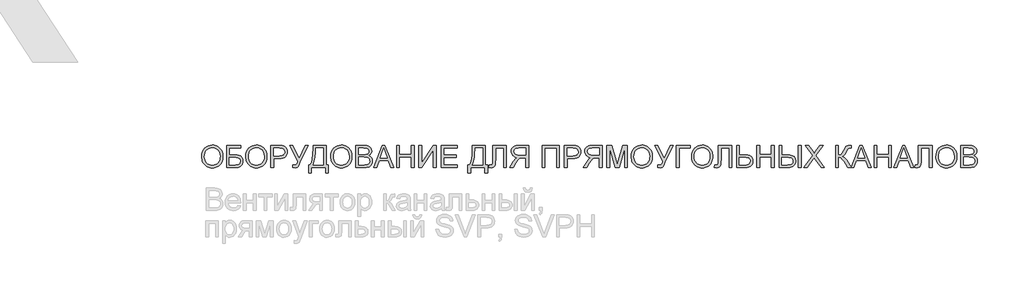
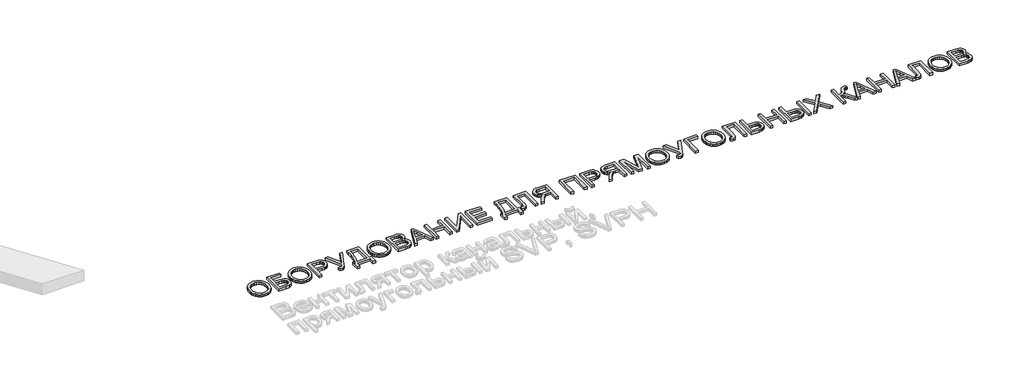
# One storey, part 21 of 31: 1 proxy.
"""IFC4 building model written with IfcOpenShell, lengths in millimetres."""

from ifc_helpers import new_model, si_unit, origin, origin_with_axes, place, context, project, spatial, polyline, outline, extrude, element, save

model = new_model("IFC4")

# Units and contexts
model_context = context("Model", 3, world=origin())
ifc_project = project(units=[si_unit("LENGTHUNIT", "METRE", prefix="MILLI")], contexts=[model_context])

# Site, building, storey
site = spatial("IfcSite", under=ifc_project)
building = spatial("IfcBuilding", under=site)
storey = spatial("IfcBuildingStorey", under=building, Name="Этаж 01", Elevation=0.0)

# Proxy
placement = place(None, origin())
element("IfcBuildingElementProxy", 1, Name="450 мм Arial", ObjectType="450 мм Arial", at=placement, inside=storey, context=model_context, shape_type="SweptSolid", body=[
    extrude(outline(polyline([(22926.643365, -1393.708141), (22930.3895847, -1340.9660333), (22941.6282438, -1294.2755113), (22960.3593423, -1253.6365749), (22986.5828801, -1219.0492242), (23018.7276407, -1191.432861), (23055.2224073, -1171.7068874), (23096.0671799, -1159.8713032), (23141.2619586, -1155.9261084), (23171.5130257, -1157.7786347), (23200.2409046, -1163.3362133), (23227.4455952, -1172.5988444), (23253.1270976, -1185.566528), (23276.5649849, -1201.8481751), (23297.0388303, -1221.052697), (23314.5486337, -1243.1800935), (23329.0943952, -1268.2303648), (23340.5251681, -1295.6340305), (23348.6900059, -1324.8216103), (23353.5889086, -1355.7931043), (23355.2218761, -1388.5485124), (23353.5031435, -1421.7361766), (23348.3469455, -1453.1262043), (23339.7532822, -1482.7185954), (23327.7221535, -1510.51335), (23312.5382997, -1535.7763187), (23294.4864609, -1557.7733523), (23273.5666369, -1576.5044508), (23249.778828, -1591.9696141), (23224.0595889, -1604.0727854), (23197.3454747, -1612.7179078), (23169.6364852, -1617.9049812), (23140.9326206, -1619.6340057), (23110.1532404, -1617.7231592), (23081.0479951, -1611.9906197), (23053.6168846, -1602.4363873), (23027.8599089, -1589.0604618), (23004.4494664, -1572.3808646), (22984.0579555, -1552.9156168), (22966.6853763, -1530.6647185), (22952.3317286, -1505.6281697), (22941.0930696, -1478.8111373), (22933.0654559, -1451.2187884), (22928.2488877, -1422.851123), (22926.643365, -1393.708141)]), holes=[polyline([(22982.8503829, -1394.2570376), (22985.6600476, -1431.5202596), (22994.089042, -1464.5981445), (23008.1373658, -1493.4906923), (23027.8050192, -1518.1979032), (23051.7128993, -1537.9856277), (23078.4819032, -1552.1197167), (23108.112031, -1560.6001701), (23140.6032826, -1563.4269879), (23173.650292, -1560.5727252), (23203.6303414, -1552.0099374), (23230.5434307, -1537.7386242), (23254.3895599, -1517.7587859), (23273.913128, -1492.5301232), (23287.8585337, -1462.5123372), (23296.2257771, -1427.7054278), (23299.0148583, -1388.1093951), (23294.2394574, -1338.351913), (23279.9132546, -1295.3458597), (23256.4067552, -1260.1753063), (23224.0904644, -1233.9243236), (23185.1050792, -1217.5809256), (23141.5912966, -1212.1331263), (23110.2287137, -1214.7575384), (23081.1303296, -1222.6307749), (23054.2961442, -1235.7528356), (23029.7261575, -1254.1237207), (23009.2180061, -1278.6285259), (22994.5693265, -1310.1523471), (22985.7801188, -1348.6951844), (22982.8503829, -1394.2570376)])]), origin_with_axes(), (0.0, 0.0, 1.0), 50.0),
    extrude(outline(polyline([(23432.5065257, -1162.9519857), (23713.5416149, -1162.9519857), (23713.5416149, -1219.1590035), (23488.7135435, -1219.1590035), (23488.7135435, -1352.6506709), (23593.9919227, -1352.6506709), (23646.3292191, -1355.5049335), (23686.755458, -1364.0677214), (23717.7955641, -1380.562066), (23741.9744619, -1407.2109988), (23757.5356821, -1441.51704), (23762.7227556, -1480.9827097), (23759.0314255, -1514.1223455), (23747.9574355, -1545.0389498), (23729.555675, -1572.1132775), (23703.8810338, -1593.7260834), (23686.6525399, -1601.9869781), (23664.2781398, -1607.8876172), (23604.0916212, -1612.6081285), (23432.5065257, -1612.6081285), (23432.5065257, -1162.9519857)]), holes=[polyline([(23488.7135435, -1556.4011106), (23609.1414705, -1556.4011106), (23651.7084063, -1551.7629339), (23668.4428932, -1545.9652129), (23682.1447261, -1537.8484036), (23692.8070437, -1527.4125058), (23700.4229848, -1514.6575197), (23704.9925495, -1499.5834452), (23706.5157377, -1482.1902824), (23703.0302439, -1458.0113846), (23692.5737626, -1438.1687703), (23675.9010266, -1423.4583399), (23653.7667688, -1414.6759934), (23620.1605709, -1410.3122649), (23569.0720144, -1408.8576888), (23488.7135435, -1408.8576888), (23488.7135435, -1556.4011106)])]), origin_with_axes(), (0.0, 0.0, 1.0), 50.0),
    extrude(outline(polyline([(23818.9297734, -1393.708141), (23822.6759931, -1340.9660333), (23833.9146522, -1294.2755113), (23852.6457507, -1253.6365749), (23878.8692886, -1219.0492242), (23911.0140491, -1191.432861), (23947.5088157, -1171.7068874), (23988.3535883, -1159.8713032), (24033.548367, -1155.9261084), (24063.7994341, -1157.7786347), (24092.527313, -1163.3362133), (24119.7320036, -1172.5988444), (24145.413506, -1185.566528), (24168.8513934, -1201.8481751), (24189.3252387, -1221.052697), (24206.8350421, -1243.1800935), (24221.3808036, -1268.2303648), (24232.8115765, -1295.6340305), (24240.9764143, -1324.8216103), (24245.875317, -1355.7931043), (24247.5082845, -1388.5485124), (24245.7895519, -1421.7361766), (24240.6333539, -1453.1262043), (24232.0396906, -1482.7185954), (24220.0085619, -1510.51335), (24204.8247081, -1535.7763187), (24186.7728693, -1557.7733523), (24165.8530454, -1576.5044508), (24142.0652364, -1591.9696141), (24116.3459973, -1604.0727854), (24089.6318831, -1612.7179078), (24061.9228936, -1617.9049812), (24033.219029, -1619.6340057), (24002.4396488, -1617.7231592), (23973.3344035, -1611.9906197), (23945.903293, -1602.4363873), (23920.1463173, -1589.0604618), (23896.7358748, -1572.3808646), (23876.3443639, -1552.9156168), (23858.9717847, -1530.6647185), (23844.618137, -1505.6281697), (23833.379478, -1478.8111373), (23825.3518643, -1451.2187884), (23820.5352961, -1422.851123), (23818.9297734, -1393.708141)]), holes=[polyline([(23875.1367913, -1394.2570376), (23877.946456, -1431.5202596), (23886.3754504, -1464.5981445), (23900.4237742, -1493.4906923), (23920.0914276, -1518.1979032), (23943.9993077, -1537.9856277), (23970.7683116, -1552.1197167), (24000.3984394, -1560.6001701), (24032.889691, -1563.4269879), (24065.9367004, -1560.5727252), (24095.9167498, -1552.0099374), (24122.8298391, -1537.7386242), (24146.6759683, -1517.7587859), (24166.1995364, -1492.5301232), (24180.1449421, -1462.5123372), (24188.5121855, -1427.7054278), (24191.3012667, -1388.1093951), (24186.5258658, -1338.351913), (24172.199663, -1295.3458597), (24148.6931636, -1260.1753063), (24116.3768728, -1233.9243236), (24077.3914876, -1217.5809256), (24033.877705, -1212.1331263), (24002.5151221, -1214.7575384), (23973.416738, -1222.6307749), (23946.5825526, -1235.7528356), (23922.0125659, -1254.1237207), (23901.5044145, -1278.6285259), (23886.8557349, -1310.1523471), (23878.0665272, -1348.6951844), (23875.1367913, -1394.2570376)])]), origin_with_axes(), (0.0, 0.0, 1.0), 50.0),
    extrude(outline(polyline([(24324.7929341, -1612.6081285), (24324.7929341, -1162.9519857), (24491.4379597, -1162.9519857), (24558.6229107, -1167.2333796), (24588.5789459, -1175.2335484), (24613.2381282, -1188.2561216), (24633.0944649, -1206.8911632), (24648.6419627, -1231.728737), (24658.6867716, -1261.0260962), (24662.0350412, -1293.0404938), (24659.7742731, -1320.6431345), (24652.9919688, -1346.0364662), (24641.6881282, -1369.2204888), (24625.8627514, -1390.1952024), (24604.1367355, -1407.581504), (24575.1309777, -1420.0002909), (24538.845478, -1427.4515631), (24495.2802363, -1429.9353205), (24380.9999519, -1429.9353205), (24380.9999519, -1612.6081285), (24324.7929341, -1612.6081285)]), holes=[polyline([(24380.9999519, -1373.7283026), (24498.5736162, -1373.7283026), (24548.4134329, -1368.568674), (24566.9935847, -1362.1191383), (24581.3472324, -1353.0897882), (24592.0575784, -1341.7207662), (24599.7078256, -1328.2522144), (24604.2979739, -1312.684133), (24605.8280234, -1295.0165218), (24602.2190278, -1269.7672755), (24591.3920412, -1248.4700851), (24574.6918604, -1232.4423027), (24553.4632821, -1223.0012801), (24497.2562643, -1219.1590035), (24380.9999519, -1219.1590035), (24380.9999519, -1373.7283026)])]), origin_with_axes(), (0.0, 0.0, 1.0), 50.0),
    extrude(outline(polyline([(24707.7032432, -1162.9519857), (24769.9481243, -1162.9519857), (24904.4278057, -1429.2766445), (25025.4046293, -1162.9519857), (25087.1006137, -1162.9519857), (24916.3937529, -1513.2578333), (24890.6230547, -1567.6534921), (24869.9570955, -1599.3248293), (24859.9191479, -1608.210094), (24847.9188947, -1614.5567116), (24818.0314716, -1619.6340057), (24767.4231997, -1612.6081285), (24767.4231997, -1563.4269879), (24811.6642704, -1563.4269879), (24829.3661876, -1560.2982769), (24844.4882906, -1550.912144), (24859.0066072, -1530.4108538), (24874.8971655, -1493.9366709), (24707.7032432, -1162.9519857)])), origin_with_axes(), (0.0, 0.0, 1.0), 50.0),
    extrude(outline(polyline([(25181.9499563, -1162.9519857), (25448.9332911, -1162.9519857), (25448.9332911, -1556.4011106), (25491.0885545, -1556.4011106), (25491.0885545, -1717.996287), (25434.8815367, -1717.996287), (25434.8815367, -1612.6081285), (25146.8205702, -1612.6081285), (25146.8205702, -1717.996287), (25090.6135523, -1717.996287), (25090.6135523, -1556.4011106), (25125.7429385, -1556.4011106), (25138.9164583, -1533.5001128), (25150.3335088, -1505.4154722), (25167.8982019, -1433.6952626), (25178.4370177, -1341.2404816), (25181.9499563, -1228.0511294), (25181.9499563, -1162.9519857)]), holes=[polyline([(25392.7262733, -1219.1590035), (25238.1569742, -1219.1590035), (25238.1569742, -1241.7735459), (25235.3027116, -1308.4370451), (25226.7399237, -1395.7939483), (25219.6591568, -1442.4707479), (25209.8339066, -1484.7975415), (25197.2641731, -1522.7743291), (25181.9499563, -1556.4011106), (25392.7262733, -1556.4011106), (25392.7262733, -1219.1590035)])]), origin_with_axes(), (0.0, 0.0, 1.0), 50.0),
    extrude(outline(polyline([(25540.2696951, -1393.708141), (25544.0159148, -1340.9660333), (25555.2545739, -1294.2755113), (25573.9856724, -1253.6365749), (25600.2092103, -1219.0492242), (25632.3539709, -1191.432861), (25668.8487374, -1171.7068874), (25709.6935101, -1159.8713032), (25754.8882887, -1155.9261084), (25785.1393558, -1157.7786347), (25813.8672347, -1163.3362133), (25841.0719253, -1172.5988444), (25866.7534277, -1185.566528), (25890.1913151, -1201.8481751), (25910.6651604, -1221.052697), (25928.1749639, -1243.1800935), (25942.7207253, -1268.2303648), (25954.1514982, -1295.6340305), (25962.316336, -1324.8216103), (25967.2152387, -1355.7931043), (25968.8482063, -1388.5485124), (25967.1294736, -1421.7361766), (25961.9732756, -1453.1262043), (25953.3796123, -1482.7185954), (25941.3484837, -1510.51335), (25926.1646298, -1535.7763187), (25908.112791, -1557.7733523), (25887.1929671, -1576.5044508), (25863.4051581, -1591.9696141), (25837.6859191, -1604.0727854), (25810.9718048, -1612.7179078), (25783.2628154, -1617.9049812), (25754.5589507, -1619.6340057), (25723.7795706, -1617.7231592), (25694.6743252, -1611.9906197), (25667.2432147, -1602.4363873), (25641.486239, -1589.0604618), (25618.0757965, -1572.3808646), (25597.6842856, -1552.9156168), (25580.3117064, -1530.6647185), (25565.9580588, -1505.6281697), (25554.7193997, -1478.8111373), (25546.6917861, -1451.2187884), (25541.8752179, -1422.851123), (25540.2696951, -1393.708141)]), holes=[polyline([(25596.476713, -1394.2570376), (25599.2863778, -1431.5202596), (25607.7153721, -1464.5981445), (25621.7636959, -1493.4906923), (25641.4313493, -1518.1979032), (25665.3392294, -1537.9856277), (25692.1082334, -1552.1197167), (25721.7383611, -1560.6001701), (25754.2296127, -1563.4269879), (25787.2766222, -1560.5727252), (25817.2566715, -1552.0099374), (25844.1697608, -1537.7386242), (25868.0158901, -1517.7587859), (25887.5394581, -1492.5301232), (25901.4848638, -1462.5123372), (25909.8521073, -1427.7054278), (25912.6411884, -1388.1093951), (25907.8657875, -1338.351913), (25893.5395847, -1295.3458597), (25870.0330853, -1260.1753063), (25837.7167945, -1233.9243236), (25798.7314093, -1217.5809256), (25755.2176267, -1212.1331263), (25723.8550439, -1214.7575384), (25694.7566597, -1222.6307749), (25667.9224743, -1235.7528356), (25643.3524877, -1254.1237207), (25622.8443362, -1278.6285259), (25608.1956567, -1310.1523471), (25599.4064489, -1348.6951844), (25596.476713, -1394.2570376)])]), origin_with_axes(), (0.0, 0.0, 1.0), 50.0),
    extrude(outline(polyline([(26046.1328558, -1612.6081285), (26046.1328558, -1162.9519857), (26217.7179513, -1162.9519857), (26264.9093416, -1166.259088), (26301.7540298, -1176.1803951), (26329.9947629, -1192.9629105), (26351.3742877, -1216.8536376), (26364.8359783, -1244.9571465), (26369.3232085, -1274.3780074), (26365.5495439, -1301.4523351), (26354.2285503, -1326.9074176), (26335.2778932, -1349.1788996), (26308.615238, -1366.7024254), (26340.4649666, -1383.3339941), (26363.9989109, -1408.6381301), (26378.5309499, -1440.9406985), (26383.3749629, -1478.5675644), (26380.0678606, -1509.9232861), (26370.1465535, -1539.0010866), (26355.3400661, -1563.728881), (26337.3774229, -1582.0345846), (26315.3803893, -1595.2904389), (26288.4707306, -1604.8686856), (26255.7702122, -1610.6732678), (26216.4005993, -1612.6081285), (26046.1328558, -1612.6081285)]), holes=[polyline([(26102.3398737, -1345.6247937), (26204.9835488, -1345.6247937), (26240.8813903, -1344.417221), (26264.923064, -1340.7945031), (26285.9046388, -1332.4649963), (26300.9855745, -1319.9913197), (26310.0835366, -1303.5655872), (26313.1161906, -1283.3799126), (26310.2893728, -1263.7843019), (26301.8089194, -1246.7136158), (26288.0590581, -1233.3891494), (26269.4240166, -1225.0321978), (26240.8265007, -1220.6273021), (26197.1892163, -1219.1590035), (26102.3398737, -1219.1590035), (26102.3398737, -1345.6247937)]), polyline([(26102.3398737, -1556.4011106), (26217.608172, -1556.4011106), (26259.3243181, -1554.205524), (26278.6866477, -1549.3340662), (26294.6183732, -1541.9651285), (26307.5723344, -1531.4125902), (26318.0013709, -1516.9903305), (26324.8763015, -1499.343303), (26327.1679451, -1479.1164611), (26324.4783514, -1455.6236841), (26316.4095706, -1435.4242871), (26302.3166489, -1419.6297857), (26281.5546327, -1409.3516958), (26252.1474942, -1403.7117826), (26212.1192054, -1401.8318115), (26102.3398737, -1401.8318115), (26102.3398737, -1556.4011106)])]), origin_with_axes(), (0.0, 0.0, 1.0), 50.0),
    extrude(outline(polyline([(26408.2948712, -1612.6081285), (26587.7840786, -1162.9519857), (26635.6478673, -1162.9519857), (26815.1370747, -1612.6081285), (26755.7464562, -1612.6081285), (26704.2599496, -1472.0905839), (26519.062217, -1472.0905839), (26467.6854897, -1612.6081285), (26408.2948712, -1612.6081285)]), holes=[polyline([(26539.7007313, -1415.883566), (26683.7312146, -1415.883566), (26643.2226412, -1305.3357789), (26611.715973, -1219.1590035), (26583.7222434, -1295.6751977), (26539.7007313, -1415.883566)])]), origin_with_axes(), (0.0, 0.0, 1.0), 50.0),
    extrude(outline(polyline([(26875.1863691, -1612.6081285), (26875.1863691, -1162.9519857), (26931.393387, -1162.9519857), (26931.393387, -1345.6247937), (27170.2732129, -1345.6247937), (27170.2732129, -1162.9519857), (27226.4802307, -1162.9519857), (27226.4802307, -1612.6081285), (27170.2732129, -1612.6081285), (27170.2732129, -1401.8318115), (26931.393387, -1401.8318115), (26931.393387, -1612.6081285), (26875.1863691, -1612.6081285)])), origin_with_axes(), (0.0, 0.0, 1.0), 50.0),
    extrude(outline(polyline([(27324.842512, -1162.9519857), (27381.0495298, -1162.9519857), (27381.0495298, -1519.0761378), (27616.4164171, -1162.9519857), (27676.1363735, -1162.9519857), (27676.1363735, -1612.6081285), (27619.9293557, -1612.6081285), (27619.9293557, -1257.4719903), (27385.1113651, -1612.6081285), (27324.842512, -1612.6081285), (27324.842512, -1162.9519857)])), origin_with_axes(), (0.0, 0.0, 1.0), 50.0),
    extrude(outline(polyline([(27774.4986548, -1612.6081285), (27774.4986548, -1162.9519857), (28097.6890074, -1162.9519857), (28097.6890074, -1219.1590035), (27830.7056726, -1219.1590035), (27830.7056726, -1352.6506709), (28083.637253, -1352.6506709), (28083.637253, -1408.8576888), (27830.7056726, -1408.8576888), (27830.7056726, -1556.4011106), (28104.7148847, -1556.4011106), (28104.7148847, -1612.6081285), (27774.4986548, -1612.6081285)])), origin_with_axes(), (0.0, 0.0, 1.0), 50.0),
    extrude(outline(polyline([(28406.8276056, -1162.9519857), (28673.8109404, -1162.9519857), (28673.8109404, -1556.4011106), (28715.9662038, -1556.4011106), (28715.9662038, -1717.996287), (28659.7591859, -1717.996287), (28659.7591859, -1612.6081285), (28371.6982194, -1612.6081285), (28371.6982194, -1717.996287), (28315.4912016, -1717.996287), (28315.4912016, -1556.4011106), (28350.6205878, -1556.4011106), (28363.7941076, -1533.5001128), (28375.2111581, -1505.4154722), (28392.7758511, -1433.6952626), (28403.314667, -1341.2404816), (28406.8276056, -1228.0511294), (28406.8276056, -1162.9519857)]), holes=[polyline([(28617.6039226, -1219.1590035), (28463.0346235, -1219.1590035), (28463.0346235, -1241.7735459), (28460.1803608, -1308.4370451), (28451.617573, -1395.7939483), (28444.5368061, -1442.4707479), (28434.7115559, -1484.7975415), (28422.1418224, -1522.7743291), (28406.8276056, -1556.4011106), (28617.6039226, -1556.4011106), (28617.6039226, -1219.1590035)])]), origin_with_axes(), (0.0, 0.0, 1.0), 50.0),
    extrude(outline(polyline([(28821.3543623, -1162.9519857), (29095.3635743, -1162.9519857), (29095.3635743, -1612.6081285), (29039.1565564, -1612.6081285), (29039.1565564, -1219.1590035), (28877.5613801, -1219.1590035), (28877.5613801, -1448.5978069), (28875.9284126, -1509.0999411), (28871.0295099, -1550.9670337), (28860.9160889, -1579.8938876), (28843.6395666, -1601.5753056), (28819.9821206, -1615.1193307), (28790.7259287, -1619.6340057), (28744.0697127, -1612.6081285), (28751.09559, -1556.4011106), (28777.9915262, -1563.4269879), (28796.997073, -1559.6533233), (28810.5410981, -1548.3323297), (28818.6510462, -1523.0144714), (28821.3543623, -1477.2502124), (28821.3543623, -1162.9519857)])), origin_with_axes(), (0.0, 0.0, 1.0), 50.0),
    extrude(outline(polyline([(29545.0197171, -1612.6081285), (29488.8126993, -1612.6081285), (29488.8126993, -1415.883566), (29420.9690722, -1415.883566), (29388.3646107, -1417.859594), (29361.6333434, -1428.5630788), (29347.6502011, -1439.7194034), (29331.9380342, -1457.7094914), (29289.6729915, -1519.4054758), (29231.1606077, -1612.6081285), (29165.8419053, -1612.6081285), (29240.8211889, -1490.7530703), (29286.3796115, -1432.8993624), (29318.3253971, -1408.8576888), (29288.5649063, -1402.9090212), (29262.9554466, -1393.9551445), (29241.4970179, -1381.9960585), (29224.1896201, -1367.0317634), (29210.8617231, -1349.6180169), (29201.3417967, -1330.3105769), (29195.6298408, -1309.1094435), (29193.7258555, -1286.0146166), (29198.3228651, -1250.4049458), (29212.1138936, -1218.0063205), (29233.6031978, -1191.8788396), (29261.2950342, -1175.0826018), (29299.1826261, -1165.9846397), (29351.2591966, -1162.9519857), (29545.0197171, -1162.9519857), (29545.0197171, -1612.6081285)]), holes=[polyline([(29488.8126993, -1359.6765481), (29488.8126993, -1219.1590035), (29348.8440513, -1219.1590035), (29304.3696995, -1224.0167389), (29287.3093052, -1230.0889082), (29273.7000987, -1238.5899452), (29255.8746797, -1260.6830358), (29251.418325, -1273.7261926), (29249.9328734, -1288.1004239), (29253.0478619, -1307.9567605), (29262.3928275, -1326.2487416), (29277.7344892, -1341.3708446), (29298.8395657, -1351.7175466), (29326.8744625, -1357.6867978), (29363.0055851, -1359.6765481), (29488.8126993, -1359.6765481)])]), origin_with_axes(), (0.0, 0.0, 1.0), 50.0),
    extrude(outline(polyline([(29819.0289291, -1162.9519857), (30170.3227907, -1162.9519857), (30170.3227907, -1612.6081285), (30114.1157729, -1612.6081285), (30114.1157729, -1219.1590035), (29875.235947, -1219.1590035), (29875.235947, -1612.6081285), (29819.0289291, -1612.6081285), (29819.0289291, -1162.9519857)])), origin_with_axes(), (0.0, 0.0, 1.0), 50.0),
    extrude(outline(polyline([(30268.685072, -1612.6081285), (30268.685072, -1162.9519857), (30435.3300975, -1162.9519857), (30502.5150486, -1167.2333796), (30532.4710837, -1175.2335484), (30557.1302661, -1188.2561216), (30576.9866027, -1206.8911632), (30592.5341006, -1231.728737), (30602.5789095, -1261.0260962), (30605.9271791, -1293.0404938), (30603.666411, -1320.6431345), (30596.8841066, -1346.0364662), (30585.5802661, -1369.2204888), (30569.7548893, -1390.1952024), (30548.0288734, -1407.581504), (30519.0231156, -1420.0002909), (30482.7376158, -1427.4515631), (30439.1723742, -1429.9353205), (30324.8920898, -1429.9353205), (30324.8920898, -1612.6081285), (30268.685072, -1612.6081285)]), holes=[polyline([(30324.8920898, -1373.7283026), (30442.4657541, -1373.7283026), (30492.3055707, -1368.568674), (30510.8857226, -1362.1191383), (30525.2393702, -1353.0897882), (30535.9497163, -1341.7207662), (30543.5999635, -1328.2522144), (30548.1901118, -1312.684133), (30549.7201612, -1295.0165218), (30546.1111657, -1269.7672755), (30535.2841791, -1248.4700851), (30518.5839983, -1232.4423027), (30497.35542, -1223.0012801), (30441.1484021, -1219.1590035), (30324.8920898, -1219.1590035), (30324.8920898, -1373.7283026)])]), origin_with_axes(), (0.0, 0.0, 1.0), 50.0),
    extrude(outline(polyline([(31034.5056902, -1612.6081285), (30978.2986723, -1612.6081285), (30978.2986723, -1415.883566), (30910.4550453, -1415.883566), (30877.8505838, -1417.859594), (30851.1193165, -1428.5630788), (30837.1361741, -1439.7194034), (30821.4240073, -1457.7094914), (30779.1589646, -1519.4054758), (30720.6465807, -1612.6081285), (30655.3278784, -1612.6081285), (30730.3071619, -1490.7530703), (30775.8655846, -1432.8993624), (30807.8113701, -1408.8576888), (30778.0508794, -1402.9090212), (30752.4414197, -1393.9551445), (30730.9829909, -1381.9960585), (30713.6755932, -1367.0317634), (30700.3476962, -1349.6180169), (30690.8277698, -1330.3105769), (30685.1158139, -1309.1094435), (30683.2118286, -1286.0146166), (30687.8088381, -1250.4049458), (30701.5998667, -1218.0063205), (30723.0891709, -1191.8788396), (30750.7810073, -1175.0826018), (30788.6685992, -1165.9846397), (30840.7451697, -1162.9519857), (31034.5056902, -1162.9519857), (31034.5056902, -1612.6081285)]), holes=[polyline([(30978.2986723, -1359.6765481), (30978.2986723, -1219.1590035), (30838.3300244, -1219.1590035), (30793.8556726, -1224.0167389), (30776.7952783, -1230.0889082), (30763.1860718, -1238.5899452), (30745.3606528, -1260.6830358), (30740.9042981, -1273.7261926), (30739.4188465, -1288.1004239), (30742.533835, -1307.9567605), (30751.8788006, -1326.2487416), (30767.2204622, -1341.3708446), (30788.3255388, -1351.7175466), (30816.3604356, -1357.6867978), (30852.4915582, -1359.6765481), (30978.2986723, -1359.6765481)])]), origin_with_axes(), (0.0, 0.0, 1.0), 50.0),
    extrude(outline(polyline([(31132.8679714, -1612.6081285), (31132.8679714, -1162.9519857), (31229.5835627, -1162.9519857), (31321.5786427, -1479.8849164), (31340.1313498, -1546.0818534), (31360.2209675, -1474.3959498), (31450.6791368, -1162.9519857), (31547.3947281, -1162.9519857), (31547.3947281, -1612.6081285), (31491.1877102, -1612.6081285), (31491.1877102, -1219.1590035), (31378.2247779, -1612.6081285), (31302.0379217, -1612.6081285), (31189.0749893, -1219.1590035), (31189.0749893, -1612.6081285), (31132.8679714, -1612.6081285)])), origin_with_axes(), (0.0, 0.0, 1.0), 50.0),
    extrude(outline(polyline([(31624.6793776, -1393.708141), (31628.4255973, -1340.9660333), (31639.6642564, -1294.2755113), (31658.3953549, -1253.6365749), (31684.6188928, -1219.0492242), (31716.7636533, -1191.432861), (31753.2584199, -1171.7068874), (31794.1031926, -1159.8713032), (31839.2979712, -1155.9261084), (31869.5490383, -1157.7786347), (31898.2769172, -1163.3362133), (31925.4816078, -1172.5988444), (31951.1631102, -1185.566528), (31974.6009976, -1201.8481751), (31995.0748429, -1221.052697), (32012.5846464, -1243.1800935), (32027.1304078, -1268.2303648), (32038.5611807, -1295.6340305), (32046.7260185, -1324.8216103), (32051.6249212, -1355.7931043), (32053.2578888, -1388.5485124), (32051.5391561, -1421.7361766), (32046.3829581, -1453.1262043), (32037.7892948, -1482.7185954), (32025.7581662, -1510.51335), (32010.5743123, -1535.7763187), (31992.5224735, -1557.7733523), (31971.6026496, -1576.5044508), (31947.8148406, -1591.9696141), (31922.0956016, -1604.0727854), (31895.3814873, -1612.7179078), (31867.6724979, -1617.9049812), (31838.9686332, -1619.6340057), (31808.1892531, -1617.7231592), (31779.0840077, -1611.9906197), (31751.6528972, -1602.4363873), (31725.8959215, -1589.0604618), (31702.485479, -1572.3808646), (31682.0939681, -1552.9156168), (31664.7213889, -1530.6647185), (31650.3677413, -1505.6281697), (31639.1290822, -1478.8111373), (31631.1014685, -1451.2187884), (31626.2849004, -1422.851123), (31624.6793776, -1393.708141)]), holes=[polyline([(31680.8863955, -1394.2570376), (31683.6960603, -1431.5202596), (31692.1250546, -1464.5981445), (31706.1733784, -1493.4906923), (31725.8410318, -1518.1979032), (31749.7489119, -1537.9856277), (31776.5179159, -1552.1197167), (31806.1480436, -1560.6001701), (31838.6392952, -1563.4269879), (31871.6863047, -1560.5727252), (31901.666354, -1552.0099374), (31928.5794433, -1537.7386242), (31952.4255726, -1517.7587859), (31971.9491406, -1492.5301232), (31985.8945463, -1462.5123372), (31994.2617898, -1427.7054278), (31997.0508709, -1388.1093951), (31992.27547, -1338.351913), (31977.9492672, -1295.3458597), (31954.4427678, -1260.1753063), (31922.126477, -1233.9243236), (31883.1410918, -1217.5809256), (31839.6273092, -1212.1331263), (31808.2647264, -1214.7575384), (31779.1663422, -1222.6307749), (31752.3321568, -1235.7528356), (31727.7621701, -1254.1237207), (31707.2540187, -1278.6285259), (31692.6053392, -1310.1523471), (31683.8161314, -1348.6951844), (31680.8863955, -1394.2570376)])]), origin_with_axes(), (0.0, 0.0, 1.0), 50.0),
    extrude(outline(polyline([(32098.9260908, -1162.9519857), (32161.1709719, -1162.9519857), (32295.6506533, -1429.2766445), (32416.6274768, -1162.9519857), (32478.3234613, -1162.9519857), (32307.6166004, -1513.2578333), (32281.8459023, -1567.6534921), (32261.1799431, -1599.3248293), (32251.1419954, -1608.210094), (32239.1417422, -1614.5567116), (32209.2543192, -1619.6340057), (32158.6460472, -1612.6081285), (32158.6460472, -1563.4269879), (32202.8871179, -1563.4269879), (32220.5890352, -1560.2982769), (32235.7111381, -1550.912144), (32250.2294547, -1530.4108538), (32266.120013, -1493.9366709), (32098.9260908, -1162.9519857)])), origin_with_axes(), (0.0, 0.0, 1.0), 50.0),
    extrude(outline(polyline([(32538.0434177, -1162.9519857), (32819.078507, -1162.9519857), (32819.078507, -1219.1590035), (32594.2504356, -1219.1590035), (32594.2504356, -1612.6081285), (32538.0434177, -1612.6081285), (32538.0434177, -1162.9519857)])), origin_with_axes(), (0.0, 0.0, 1.0), 50.0),
    extrude(outline(polyline([(32847.1820159, -1393.708141), (32850.9282356, -1340.9660333), (32862.1668947, -1294.2755113), (32880.8979932, -1253.6365749), (32907.1215311, -1219.0492242), (32939.2662916, -1191.432861), (32975.7610582, -1171.7068874), (33016.6058308, -1159.8713032), (33061.8006095, -1155.9261084), (33092.0516766, -1157.7786347), (33120.7795555, -1163.3362133), (33147.9842461, -1172.5988444), (33173.6657485, -1185.566528), (33197.1036359, -1201.8481751), (33217.5774812, -1221.052697), (33235.0872846, -1243.1800935), (33249.6330461, -1268.2303648), (33261.063819, -1295.6340305), (33269.2286568, -1324.8216103), (33274.1275595, -1355.7931043), (33275.7605271, -1388.5485124), (33274.0417944, -1421.7361766), (33268.8855964, -1453.1262043), (33260.2919331, -1482.7185954), (33248.2608044, -1510.51335), (33233.0769506, -1535.7763187), (33215.0251118, -1557.7733523), (33194.1052879, -1576.5044508), (33170.3174789, -1591.9696141), (33144.5982398, -1604.0727854), (33117.8841256, -1612.7179078), (33090.1751361, -1617.9049812), (33061.4712715, -1619.6340057), (33030.6918914, -1617.7231592), (33001.586646, -1611.9906197), (32974.1555355, -1602.4363873), (32948.3985598, -1589.0604618), (32924.9881173, -1572.3808646), (32904.5966064, -1552.9156168), (32887.2240272, -1530.6647185), (32872.8703796, -1505.6281697), (32861.6317205, -1478.8111373), (32853.6041068, -1451.2187884), (32848.7875387, -1422.851123), (32847.1820159, -1393.708141)]), holes=[polyline([(32903.3890338, -1394.2570376), (32906.1986986, -1431.5202596), (32914.6276929, -1464.5981445), (32928.6760167, -1493.4906923), (32948.3436701, -1518.1979032), (32972.2515502, -1537.9856277), (32999.0205541, -1552.1197167), (33028.6506819, -1560.6001701), (33061.1419335, -1563.4269879), (33094.188943, -1560.5727252), (33124.1689923, -1552.0099374), (33151.0820816, -1537.7386242), (33174.9282108, -1517.7587859), (33194.4517789, -1492.5301232), (33208.3971846, -1462.5123372), (33216.7644281, -1427.7054278), (33219.5535092, -1388.1093951), (33214.7781083, -1338.351913), (33200.4519055, -1295.3458597), (33176.9454061, -1260.1753063), (33144.6291153, -1233.9243236), (33105.6437301, -1217.5809256), (33062.1299475, -1212.1331263), (33030.7673646, -1214.7575384), (33001.6689805, -1222.6307749), (32974.8347951, -1235.7528356), (32950.2648084, -1254.1237207), (32929.756657, -1278.6285259), (32915.1079774, -1310.1523471), (32906.3187697, -1348.6951844), (32903.3890338, -1394.2570376)])]), origin_with_axes(), (0.0, 0.0, 1.0), 50.0),
    extrude(outline(polyline([(33388.1745628, -1162.9519857), (33662.1837748, -1162.9519857), (33662.1837748, -1612.6081285), (33605.9767569, -1612.6081285), (33605.9767569, -1219.1590035), (33444.3815806, -1219.1590035), (33444.3815806, -1448.5978069), (33442.748613, -1509.0999411), (33437.8497104, -1550.9670337), (33427.7362894, -1579.8938876), (33410.4597671, -1601.5753056), (33386.8023211, -1615.1193307), (33357.5461292, -1619.6340057), (33310.8899132, -1612.6081285), (33317.9157904, -1556.4011106), (33344.8117267, -1563.4269879), (33363.8172735, -1559.6533233), (33377.3612986, -1548.3323297), (33385.4712467, -1523.0144714), (33388.1745628, -1477.2502124), (33388.1745628, -1162.9519857)])), origin_with_axes(), (0.0, 0.0, 1.0), 50.0),
    extrude(outline(polyline([(33760.546056, -1162.9519857), (33816.7530739, -1162.9519857), (33816.7530739, -1352.6506709), (33922.031453, -1352.6506709), (33985.5525188, -1357.0555666), (34009.7074024, -1362.5616862), (34028.7918531, -1370.2702537), (34057.2247001, -1391.073437), (34076.3263038, -1418.2438216), (34087.1532904, -1449.0506466), (34090.7622859, -1480.7631511), (34088.5941441, -1506.2456784), (34082.0897187, -1530.1089607), (34071.2490097, -1552.3529978), (34056.0720171, -1572.9777897), (34034.9943854, -1590.3160629), (34006.4517591, -1602.7005438), (33970.4441383, -1610.1312323), (33926.9715229, -1612.6081285), (33760.546056, -1612.6081285), (33760.546056, -1162.9519857)]), holes=[polyline([(33816.7530739, -1556.4011106), (33926.8617436, -1556.4011106), (33957.4764548, -1555.011716), (33982.2454165, -1550.843532), (34001.1686288, -1543.8965586), (34014.2460917, -1534.170796), (34029.477974, -1509.6488377), (34034.5552681, -1480.5435924), (34030.8776604, -1456.9684809), (34019.8448376, -1437.1807564), (34002.6780946, -1422.4566035), (33980.5987265, -1414.072207), (33947.5414252, -1410.1613183), (33897.4408827, -1408.8576888), (33816.7530739, -1408.8576888), (33816.7530739, -1556.4011106)])]), origin_with_axes(), (0.0, 0.0, 1.0), 50.0),
    extrude(outline(polyline([(34168.0469355, -1612.6081285), (34168.0469355, -1162.9519857), (34224.2539533, -1162.9519857), (34224.2539533, -1345.6247937), (34463.1337792, -1345.6247937), (34463.1337792, -1162.9519857), (34519.340797, -1162.9519857), (34519.340797, -1612.6081285), (34463.1337792, -1612.6081285), (34463.1337792, -1401.8318115), (34224.2539533, -1401.8318115), (34224.2539533, -1612.6081285), (34168.0469355, -1612.6081285)])), origin_with_axes(), (0.0, 0.0, 1.0), 50.0),
    extrude(outline(polyline([(34617.7030783, -1162.9519857), (34673.9100961, -1162.9519857), (34673.9100961, -1352.6506709), (34781.9329586, -1352.6506709), (34830.4211171, -1355.1069835), (34869.8387585, -1362.4759211), (34900.1858825, -1374.7574838), (34921.4624892, -1391.9516717), (34936.1111688, -1412.2608481), (34946.5745113, -1433.8873764), (34952.8525169, -1456.8312567), (34954.9451854, -1481.0924891), (34952.7324457, -1506.5647246), (34946.0942268, -1530.3971314), (34935.0305285, -1552.5897095), (34919.5413509, -1573.1424587), (34898.0417549, -1590.4086892), (34868.9468014, -1602.741711), (34832.2564903, -1610.1415241), (34787.9708218, -1612.6081285), (34617.7030783, -1612.6081285), (34617.7030783, -1162.9519857)]), holes=[polyline([(34673.9100961, -1556.4011106), (34787.4219251, -1556.4011106), (34837.9066953, -1551.9413253), (34857.1283702, -1546.3665936), (34872.3362382, -1538.5619692), (34883.8870823, -1528.3010323), (34892.1376852, -1515.357363), (34897.088047, -1499.7309612), (34898.7381675, -1481.4218271), (34894.7449443, -1456.9135912), (34882.7652748, -1436.741639), (34864.4595712, -1422.0037637), (34841.488246, -1413.7977587), (34807.7173791, -1410.0927063), (34757.0130503, -1408.8576888), (34673.9100961, -1408.8576888), (34673.9100961, -1556.4011106)])]), origin_with_axes(), (0.0, 0.0, 1.0), 50.0),
    extrude(outline(polyline([(35011.1522032, -1162.9519857), (35067.3592211, -1162.9519857), (35067.3592211, -1612.6081285), (35011.1522032, -1612.6081285), (35011.1522032, -1162.9519857)])), origin_with_axes(), (0.0, 0.0, 1.0), 50.0),
    extrude(outline(polyline([(35123.5662389, -1612.6081285), (35296.9078038, -1367.58066), (35151.6697479, -1162.9519857), (35219.0742576, -1162.9519857), (35300.8598597, -1278.1105047), (35328.414472, -1323.0102513), (35360.6895955, -1277.3420493), (35441.596963, -1162.9519857), (35509.9894867, -1162.9519857), (35364.7514308, -1368.239336), (35538.0929956, -1612.6081285), (35470.6884859, -1612.6081285), (35355.2006289, -1449.6956002), (35331.1589553, -1415.883566), (35304.7021363, -1452.9889801), (35191.9587626, -1612.6081285), (35123.5662389, -1612.6081285)])), origin_with_axes(), (0.0, 0.0, 1.0), 50.0),
    extrude(outline(polyline([(36013.8766194, -1612.6081285), (35933.9572659, -1485.9227797), (35903.0955512, -1445.2907045), (35877.6953583, -1419.7807323), (35851.718824, -1406.3190417), (35819.1280849, -1401.8318115), (35819.1280849, -1612.6081285), (35762.921067, -1612.6081285), (35762.921067, -1162.9519857), (35819.1280849, -1162.9519857), (35819.1280849, -1359.6765481), (35857.1803457, -1355.9577733), (35881.9767523, -1344.8014487), (35902.0252027, -1318.550466), (35925.8335953, -1269.5477168), (35956.8462565, -1206.6990494), (35971.8036905, -1189.6695305), (35991.9756427, -1175.5766088), (36015.9212594, -1166.1081415), (36042.199687, -1162.9519857), (36079.0855424, -1163.6106617), (36079.0855424, -1219.8176795), (36066.6804779, -1219.4883415), (36054.2754135, -1219.1590035), (36028.5321602, -1222.534718), (36010.3636808, -1232.6618613), (35994.720126, -1253.9316068), (35976.9907639, -1290.5155692), (35955.2407338, -1336.0739918), (35937.1957562, -1360.9939001), (35919.397782, -1374.1125303), (35898.3887624, -1384.2671185), (35920.1593761, -1393.5297496), (35941.7790433, -1409.6810338), (35963.2477638, -1432.720971), (35984.5655378, -1462.6495613), (36077.1363522, -1609.515685), (36255.3911492, -1162.9519857), (36303.2549378, -1162.9519857), (36482.7441452, -1612.6081285), (36423.3535268, -1612.6081285), (36371.8670202, -1472.0905839), (36186.6692875, -1472.0905839), (36135.2925603, -1612.6081285), (36079.0855424, -1612.6081285), (36075.9019418, -1612.6081285), (36013.8766194, -1612.6081285)]), holes=[polyline([(36207.3078019, -1415.883566), (36351.3382851, -1415.883566), (36310.8297117, -1305.3357789), (36279.3230435, -1219.1590035), (36251.3293139, -1295.6751977), (36207.3078019, -1415.883566)])]), origin_with_axes(), (0.0, 0.0, 1.0), 50.0),
    extrude(outline(polyline([(36542.7934397, -1612.6081285), (36542.7934397, -1162.9519857), (36599.0004576, -1162.9519857), (36599.0004576, -1345.6247937), (36837.8802834, -1345.6247937), (36837.8802834, -1162.9519857), (36894.0873013, -1162.9519857), (36894.0873013, -1612.6081285), (36837.8802834, -1612.6081285), (36837.8802834, -1401.8318115), (36599.0004576, -1401.8318115), (36599.0004576, -1612.6081285), (36542.7934397, -1612.6081285)])), origin_with_axes(), (0.0, 0.0, 1.0), 50.0),
    extrude(outline(polyline([(36940.0848413, -1612.6081285), (37119.5740487, -1162.9519857), (37167.4378373, -1162.9519857), (37346.9270447, -1612.6081285), (37287.5364262, -1612.6081285), (37236.0499197, -1472.0905839), (37050.852187, -1472.0905839), (36999.4754598, -1612.6081285), (36940.0848413, -1612.6081285)]), holes=[polyline([(37071.4907014, -1415.883566), (37215.5211846, -1415.883566), (37175.0126112, -1305.3357789), (37143.505943, -1219.1590035), (37115.5122134, -1295.6751977), (37071.4907014, -1415.883566)])]), origin_with_axes(), (0.0, 0.0, 1.0), 50.0),
    extrude(outline(polyline([(37442.1057253, -1162.9519857), (37716.1149374, -1162.9519857), (37716.1149374, -1612.6081285), (37659.9079195, -1612.6081285), (37659.9079195, -1219.1590035), (37498.3127432, -1219.1590035), (37498.3127432, -1448.5978069), (37496.6797756, -1509.0999411), (37491.780873, -1550.9670337), (37481.667452, -1579.8938876), (37464.3909297, -1601.5753056), (37440.7334837, -1615.1193307), (37411.4772918, -1619.6340057), (37364.8210758, -1612.6081285), (37371.846953, -1556.4011106), (37398.7428893, -1563.4269879), (37417.7484361, -1559.6533233), (37431.2924612, -1548.3323297), (37439.4024093, -1523.0144714), (37442.1057253, -1477.2502124), (37442.1057253, -1162.9519857)])), origin_with_axes(), (0.0, 0.0, 1.0), 50.0),
    extrude(outline(polyline([(37793.3995869, -1393.708141), (37797.1458066, -1340.9660333), (37808.3844657, -1294.2755113), (37827.1155642, -1253.6365749), (37853.3391021, -1219.0492242), (37885.4838626, -1191.432861), (37921.9786292, -1171.7068874), (37962.8234018, -1159.8713032), (38008.0181805, -1155.9261084), (38038.2692476, -1157.7786347), (38066.9971265, -1163.3362133), (38094.2018171, -1172.5988444), (38119.8833195, -1185.566528), (38143.3212068, -1201.8481751), (38163.7950522, -1221.052697), (38181.3048556, -1243.1800935), (38195.8506171, -1268.2303648), (38207.28139, -1295.6340305), (38215.4462278, -1324.8216103), (38220.3451305, -1355.7931043), (38221.978098, -1388.5485124), (38220.2593654, -1421.7361766), (38215.1031674, -1453.1262043), (38206.5095041, -1482.7185954), (38194.4783754, -1510.51335), (38179.2945216, -1535.7763187), (38161.2426828, -1557.7733523), (38140.3228588, -1576.5044508), (38116.5350499, -1591.9696141), (38090.8158108, -1604.0727854), (38064.1016966, -1612.7179078), (38036.3927071, -1617.9049812), (38007.6888425, -1619.6340057), (37976.9094623, -1617.7231592), (37947.804217, -1611.9906197), (37920.3731065, -1602.4363873), (37894.6161308, -1589.0604618), (37871.2056883, -1572.3808646), (37850.8141774, -1552.9156168), (37833.4415982, -1530.6647185), (37819.0879505, -1505.6281697), (37807.8492915, -1478.8111373), (37799.8216778, -1451.2187884), (37795.0051096, -1422.851123), (37793.3995869, -1393.708141)]), holes=[polyline([(37849.6066048, -1394.2570376), (37852.4162695, -1431.5202596), (37860.8452639, -1464.5981445), (37874.8935877, -1493.4906923), (37894.5612411, -1518.1979032), (37918.4691212, -1537.9856277), (37945.2381251, -1552.1197167), (37974.8682529, -1560.6001701), (38007.3595045, -1563.4269879), (38040.4065139, -1560.5727252), (38070.3865633, -1552.0099374), (38097.2996526, -1537.7386242), (38121.1457818, -1517.7587859), (38140.6693499, -1492.5301232), (38154.6147556, -1462.5123372), (38162.981999, -1427.7054278), (38165.7710802, -1388.1093951), (38160.9956793, -1338.351913), (38146.6694765, -1295.3458597), (38123.1629771, -1260.1753063), (38090.8466863, -1233.9243236), (38051.8613011, -1217.5809256), (38008.3475185, -1212.1331263), (37976.9849356, -1214.7575384), (37947.8865515, -1222.6307749), (37921.0523661, -1235.7528356), (37896.4823794, -1254.1237207), (37875.974228, -1278.6285259), (37861.3255484, -1310.1523471), (37852.5363407, -1348.6951844), (37849.6066048, -1394.2570376)])]), origin_with_axes(), (0.0, 0.0, 1.0), 50.0),
    extrude(outline(polyline([(38299.2627476, -1612.6081285), (38299.2627476, -1162.9519857), (38470.8478431, -1162.9519857), (38518.0392333, -1166.259088), (38554.8839216, -1176.1803951), (38583.1246546, -1192.9629105), (38604.5041795, -1216.8536376), (38617.9658701, -1244.9571465), (38622.4531002, -1274.3780074), (38618.6794357, -1301.4523351), (38607.3584421, -1326.9074176), (38588.407785, -1349.1788996), (38561.7451298, -1366.7024254), (38593.5948584, -1383.3339941), (38617.1288026, -1408.6381301), (38631.6608417, -1440.9406985), (38636.5048547, -1478.5675644), (38633.1977523, -1509.9232861), (38623.2764452, -1539.0010866), (38608.4699579, -1563.728881), (38590.5073147, -1582.0345846), (38568.5102811, -1595.2904389), (38541.6006224, -1604.8686856), (38508.900104, -1610.6732678), (38469.5304911, -1612.6081285), (38299.2627476, -1612.6081285)]), holes=[polyline([(38355.4697654, -1345.6247937), (38458.1134406, -1345.6247937), (38494.0112821, -1344.417221), (38518.0529558, -1340.7945031), (38539.0345305, -1332.4649963), (38554.1154662, -1319.9913197), (38563.2134283, -1303.5655872), (38566.2460824, -1283.3799126), (38563.4192646, -1263.7843019), (38554.9388112, -1246.7136158), (38541.1889499, -1233.3891494), (38522.5539084, -1225.0321978), (38493.9563924, -1220.6273021), (38450.3191081, -1219.1590035), (38355.4697654, -1219.1590035), (38355.4697654, -1345.6247937)]), polyline([(38355.4697654, -1556.4011106), (38470.7380638, -1556.4011106), (38512.4542098, -1554.205524), (38531.8165395, -1549.3340662), (38547.748265, -1541.9651285), (38560.7022261, -1531.4125902), (38571.1312626, -1516.9903305), (38578.0061933, -1499.343303), (38580.2978368, -1479.1164611), (38577.6082432, -1455.6236841), (38569.5394623, -1435.4242871), (38555.4465406, -1419.6297857), (38534.6845245, -1409.3516958), (38505.277386, -1403.7117826), (38465.2490972, -1401.8318115), (38355.4697654, -1401.8318115), (38355.4697654, -1556.4011106)])]), origin_with_axes(), (0.0, 0.0, 1.0), 50.0),
])

save(model, "model.ifc")
